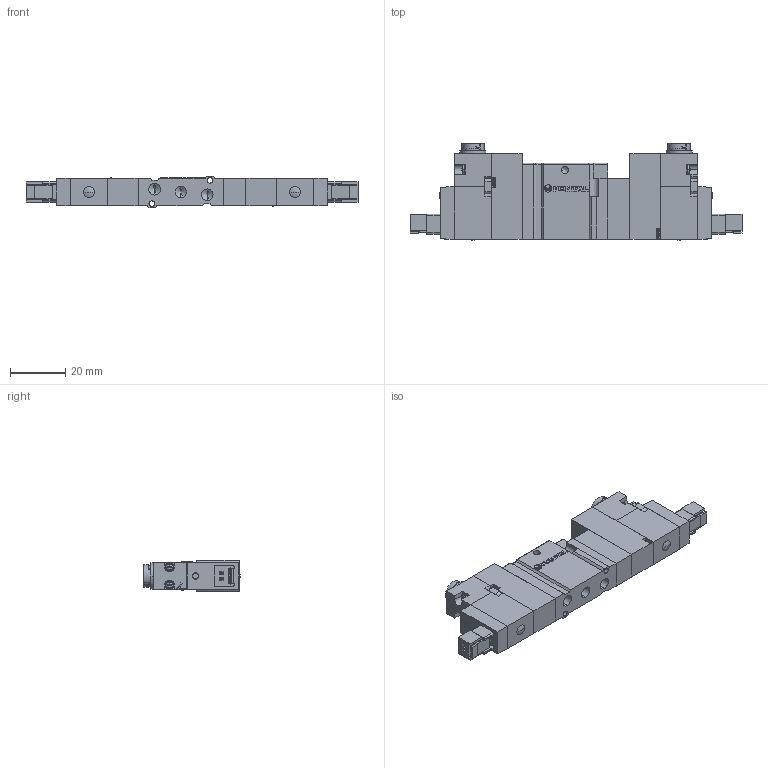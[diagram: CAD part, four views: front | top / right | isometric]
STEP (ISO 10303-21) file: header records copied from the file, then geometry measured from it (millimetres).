
FILE_DESCRIPTION (( 'STEP AP203' ), '1' );
FILE_NAME ('A05RD(E¡BO)35#-#-#-E.STEP', '2016-02-04T02:04:38', ( 'Sam Lin' ), ( '' ), 'SwSTEP 2.0', 'SolidWorks 2013', '' );
FILE_SCHEMA (( 'CONFIG_CONTROL_DESIGN' ));
Length unit declared in the file: metre
Products named in the file (14): mark-ADEX-A05RS; A05RS25-3; A05RS25-13; A05RS25-4; A05RD(E、O)35#-#-#-E; A05RS25-5; A05RS25-6; A05RS25-7; A05RS25-8; A05RS25-#-#-#; A05RS25-9; A05RS25-2; A05RS25-10; ISO 7045 - M1.6 x 10
Assembly tree (31 placements, depth 2):
  A05RD(E、O)35#-#-#-E
    A05RS25-#-#-#
    A05RS25-2  x2
    ISO 7045 - M1.6 x 10  x8
    A05RS25-3  x2
    A05RS25-4  x2
    A05RS25-5  x2
    A05RS25-6  x4
    A05RS25-7  x2
    A05RS25-8  x2
    A05RS25-9  x2
    A05RS25-10  x2
    mark-ADEX-A05RS
    A05RS25-13
Bounding box: 120 x 35 x 11.4 mm (x, y, z)
Volume: 25485.6 mm3; surface area: 17329.7 mm2
Topology: 39 solids, 39 shells, 1001 faces, 2524 edges, 1601 vertices
Faces by surface type: plane 645, cylinder 190, cone 92, bspline 74
Entity records: 16228 total; most frequent: CARTESIAN_POINT 3291, ORIENTED_EDGE 2278, DIRECTION 2241, EDGE_CURVE 1139, LINE 801, VECTOR 801, VERTEX_POINT 742, AXIS2_PLACEMENT_3D 720
